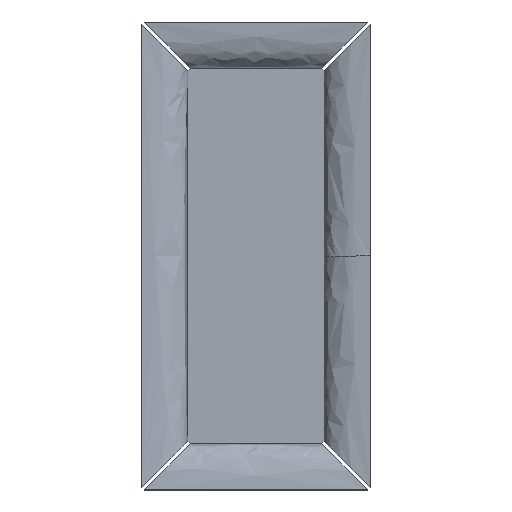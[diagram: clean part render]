
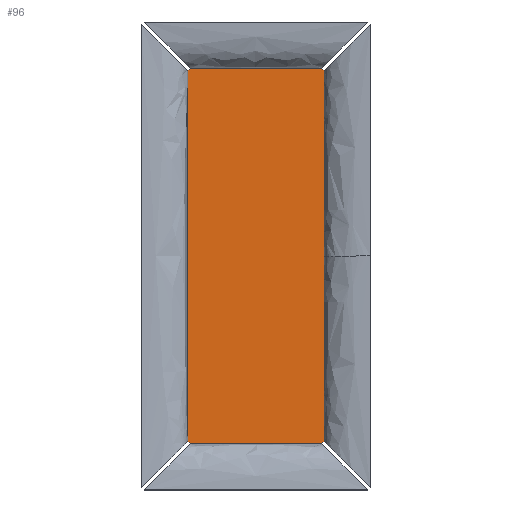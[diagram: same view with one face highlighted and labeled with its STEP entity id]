
A CAD part, top view. The second image highlights one B-rep face of the part: STEP entity #96.
In plain terms, the highlighted planar face has unit normal (0, 0, 1).
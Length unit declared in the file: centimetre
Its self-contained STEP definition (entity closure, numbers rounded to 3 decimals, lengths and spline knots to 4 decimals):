
#21=PLANE($,#1018);
#96=ADVANCED_FACE($,(#158),#21,.T.);
#158=FACE_OUTER_BOUND($,#220,.T.);
#220=EDGE_LOOP($,(#472,#473,#474,#475,#476,#477,#478,#479));
#472=ORIENTED_EDGE($,*,*,#626,.T.);
#473=ORIENTED_EDGE($,*,*,#640,.T.);
#474=ORIENTED_EDGE($,*,*,#639,.T.);
#475=ORIENTED_EDGE($,*,*,#638,.T.);
#476=ORIENTED_EDGE($,*,*,#637,.T.);
#477=ORIENTED_EDGE($,*,*,#636,.T.);
#478=ORIENTED_EDGE($,*,*,#635,.T.);
#479=ORIENTED_EDGE($,*,*,#634,.T.);
#626=EDGE_CURVE($,#721,#735,#898,.T.);
#634=EDGE_CURVE($,#729,#721,#906,.T.);
#635=EDGE_CURVE($,#730,#729,#907,.T.);
#636=EDGE_CURVE($,#731,#730,#908,.T.);
#637=EDGE_CURVE($,#732,#731,#909,.T.);
#638=EDGE_CURVE($,#733,#732,#910,.T.);
#639=EDGE_CURVE($,#734,#733,#911,.T.);
#640=EDGE_CURVE($,#735,#734,#912,.T.);
#721=VERTEX_POINT($,#3487);
#729=VERTEX_POINT($,#3495);
#730=VERTEX_POINT($,#3496);
#731=VERTEX_POINT($,#3497);
#732=VERTEX_POINT($,#3498);
#733=VERTEX_POINT($,#3499);
#734=VERTEX_POINT($,#3500);
#735=VERTEX_POINT($,#3501);
#898=B_SPLINE_CURVE_WITH_KNOTS($,1,(#3432,#3433),.UNSPECIFIED.,.F.,.F.,(2,
2),(0.,1.2021),.UNSPECIFIED.);
#906=B_SPLINE_CURVE_WITH_KNOTS($,1,(#3448,#3449),.UNSPECIFIED.,.F.,.F.,(2,
2),(213.7083,336.0083),.UNSPECIFIED.);
#907=B_SPLINE_CURVE_WITH_KNOTS($,1,(#3450,#3451),.UNSPECIFIED.,.F.,.F.,(2,
2),(212.5062,213.7083),.UNSPECIFIED.);
#908=B_SPLINE_CURVE_WITH_KNOTS($,1,(#3452,#3453),.UNSPECIFIED.,.F.,.F.,(2,
2),(169.2062,212.5062),.UNSPECIFIED.);
#909=B_SPLINE_CURVE_WITH_KNOTS($,1,(#3454,#3455),.UNSPECIFIED.,.F.,.F.,(2,
2),(168.0042,169.2062),.UNSPECIFIED.);
#910=B_SPLINE_CURVE_WITH_KNOTS($,1,(#3456,#3457),.UNSPECIFIED.,.F.,.F.,(2,
2),(45.7042,168.0042),.UNSPECIFIED.);
#911=B_SPLINE_CURVE_WITH_KNOTS($,1,(#3458,#3459),.UNSPECIFIED.,.F.,.F.,(2,
2),(44.5021,45.7042),.UNSPECIFIED.);
#912=B_SPLINE_CURVE_WITH_KNOTS($,1,(#3460,#3461),.UNSPECIFIED.,.F.,.F.,(2,
2),(1.2021,44.5021),.UNSPECIFIED.);
#1018=AXIS2_PLACEMENT_3D($,#3478,#1039,$);
#1039=DIRECTION($,(0.,0.,1.));
#3432=CARTESIAN_POINT($,(0.,0.85,3.6));
#3433=CARTESIAN_POINT($,(0.85,0.,3.6));
#3448=CARTESIAN_POINT($,(0.,123.15,3.6));
#3449=CARTESIAN_POINT($,(0.,0.85,3.6));
#3450=CARTESIAN_POINT($,(0.85,124.,3.6));
#3451=CARTESIAN_POINT($,(0.,123.15,3.6));
#3452=CARTESIAN_POINT($,(44.15,124.,3.6));
#3453=CARTESIAN_POINT($,(0.85,124.,3.6));
#3454=CARTESIAN_POINT($,(45.,123.15,3.6));
#3455=CARTESIAN_POINT($,(44.15,124.,3.6));
#3456=CARTESIAN_POINT($,(45.,0.85,3.6));
#3457=CARTESIAN_POINT($,(45.,123.15,3.6));
#3458=CARTESIAN_POINT($,(44.15,0.,3.6));
#3459=CARTESIAN_POINT($,(45.,0.85,3.6));
#3460=CARTESIAN_POINT($,(0.85,0.,3.6));
#3461=CARTESIAN_POINT($,(44.15,0.,3.6));
#3478=CARTESIAN_POINT($,(0.,0.,3.6));
#3487=CARTESIAN_POINT($,(0.,0.85,3.6));
#3495=CARTESIAN_POINT($,(0.,123.15,3.6));
#3496=CARTESIAN_POINT($,(0.85,124.,3.6));
#3497=CARTESIAN_POINT($,(44.15,124.,3.6));
#3498=CARTESIAN_POINT($,(45.,123.15,3.6));
#3499=CARTESIAN_POINT($,(45.,0.85,3.6));
#3500=CARTESIAN_POINT($,(44.15,0.,3.6));
#3501=CARTESIAN_POINT($,(0.85,0.,3.6));
